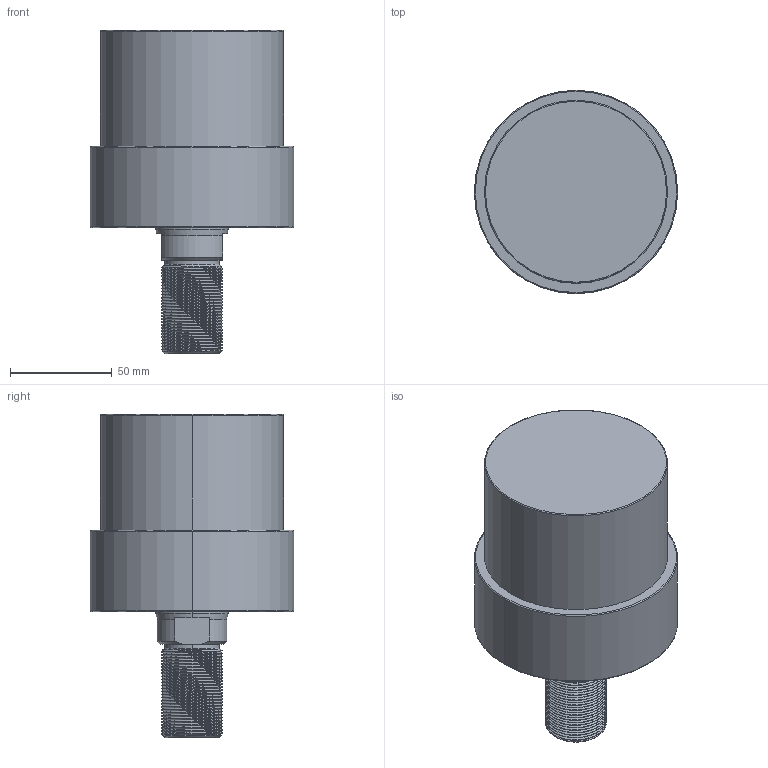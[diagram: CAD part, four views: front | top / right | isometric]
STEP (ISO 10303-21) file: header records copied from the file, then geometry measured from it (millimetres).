
FILE_DESCRIPTION (( 'STEP AP203' ), '1' );
FILE_NAME ('CLLU-090GT-035.STEP', '2020-01-13T02:36:35', ( '' ), ( '' ), 'SwSTEP 2.0', 'SolidWorks 2015', '' );
FILE_SCHEMA (( 'CONFIG_CONTROL_DESIGN' ));
Length unit declared in the file: millimetre
Products named in the file (1): CLLU-090GT-035
Bounding box: 100 x 100 x 159 mm (x, y, z)
Volume: 715488.9 mm3; surface area: 55908.9 mm2
Topology: 1 solids, 1 shells, 123 faces, 321 edges, 201 vertices
Faces by surface type: cylinder 78, cone 26, plane 11, torus 6, bspline 2
Entity records: 7150 total; most frequent: CARTESIAN_POINT 4415, ORIENTED_EDGE 626, DIRECTION 501, EDGE_CURVE 313, VERTEX_POINT 201, AXIS2_PLACEMENT_3D 197, EDGE_LOOP 132, ADVANCED_FACE 123
